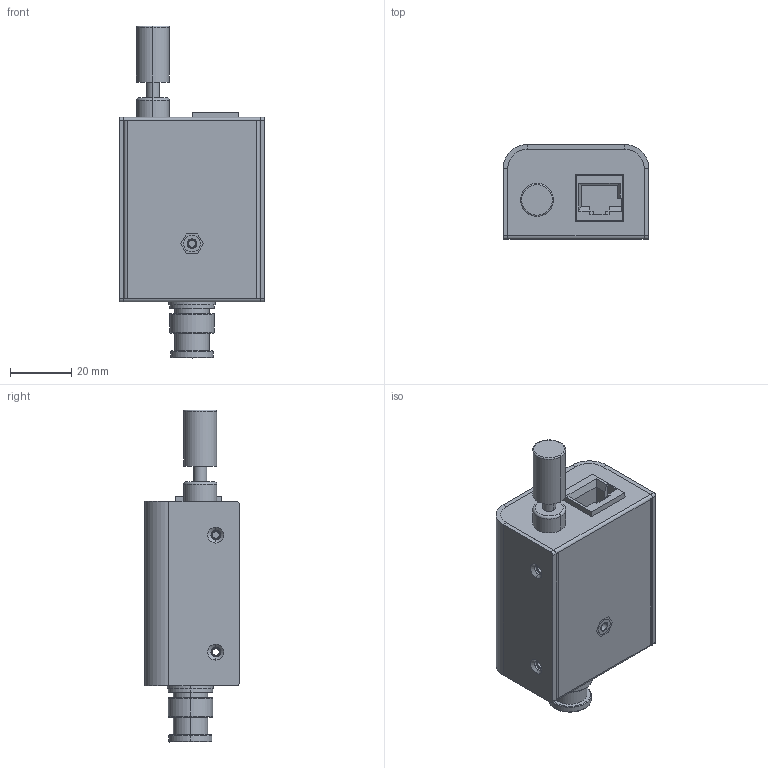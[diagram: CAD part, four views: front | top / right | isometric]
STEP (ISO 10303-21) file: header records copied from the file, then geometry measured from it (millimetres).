
FILE_DESCRIPTION((''),'2;1');
FILE_NAME('ASM_SENSOR_OSCILLATOR_BOX_ASM','2021-07-22T11:10:05',('gaw'),(''),'CREO PARAMETRIC BY PTC INC, 2021164','CREO PARAMETRIC BY PTC INC, 2021164','');
FILE_SCHEMA(('CONFIG_CONTROL_DESIGN'));
Length unit declared in the file: inch
Products named in the file (18): CHASSIS_SENSOR_OSCILLATOR; SOS-6440-4; CLS-440-0; AMS_CHASSIS_SENSOR_OSCILLATOR_ASM; COVER_SENSOR_OSCILLATOR; BS_0420-1; AMS_COVER_SENSOR_OSCILLATOR_BOX_ASM; PCB_SENSOR_OSCILLATOR; CONNECTOR_MOLEX_15-43-9501; LED_GREEN_STRAIGHT; ASM_PCB_SENSOR_OSICILLATOR_ASM; INSULATOR_BNC; 0-696; CONNECTOR_BNC_BLKHD_RECEPT_MALE; NUT_PANEL_MOUNT_BNC; GROUND_LUG_INSULATED; NUT_312; ASM_SENSOR_OSCILLATOR_BOX_ASM
Assembly tree (20 placements, depth 3):
  ASM_SENSOR_OSCILLATOR_BOX_ASM
    AMS_CHASSIS_SENSOR_OSCILLATOR_ASM
      CHASSIS_SENSOR_OSCILLATOR
      SOS-6440-4
      CLS-440-0  x4
    AMS_COVER_SENSOR_OSCILLATOR_BOX_ASM
      COVER_SENSOR_OSCILLATOR
      BS_0420-1
    ASM_PCB_SENSOR_OSICILLATOR_ASM
      PCB_SENSOR_OSCILLATOR
      CONNECTOR_MOLEX_15-43-9501
      LED_GREEN_STRAIGHT
    INSULATOR_BNC
    0-696
    CONNECTOR_BNC_BLKHD_RECEPT_MALE
    NUT_PANEL_MOUNT_BNC
    GROUND_LUG_INSULATED
    NUT_312
Bounding box: 47.5 x 30.73 x 108.05 mm (x, y, z)
Volume: 28649.2 mm3; surface area: 39487.1 mm2
Topology: 17 solids, 25 shells, 573 faces, 1364 edges, 865 vertices
Faces by surface type: plane 339, cylinder 184, cone 28, torus 12, bspline 6, extrusion 4
Entity records: 16464 total; most frequent: CARTESIAN_POINT 3096, DIRECTION 2825, ORIENTED_EDGE 2560, EDGE_CURVE 1290, AXIS2_PLACEMENT_3D 968, VECTOR 889, LINE 885, VERTEX_POINT 817
